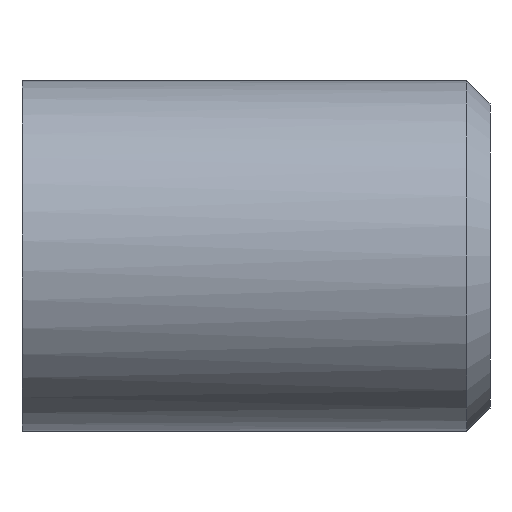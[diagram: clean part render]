
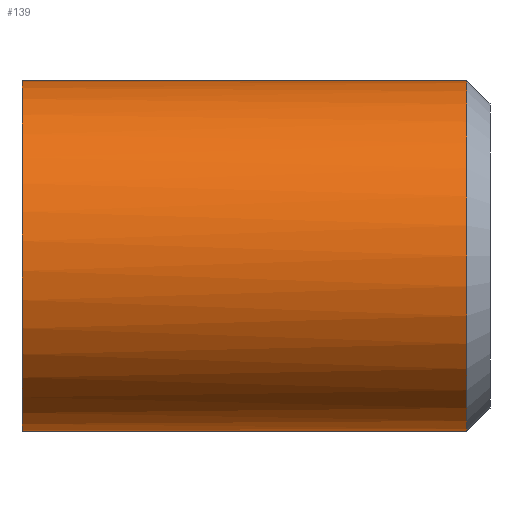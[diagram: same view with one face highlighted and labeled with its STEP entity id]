
A CAD part, front view. The second image highlights one B-rep face of the part: STEP entity #139.
In plain terms, the highlighted cylindrical face has radius 7.5 mm (diameter 15 mm), a full revolution.
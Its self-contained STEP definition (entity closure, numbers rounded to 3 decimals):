
#21=B_SPLINE_CURVE_WITH_KNOTS('',3,(#249,#250,#251,#252),.UNSPECIFIED.,
 .F.,.F.,(4,4),(0.,0.14),.UNSPECIFIED.);
#22=B_SPLINE_CURVE_WITH_KNOTS('',3,(#255,#256,#257,#258),.UNSPECIFIED.,
 .F.,.F.,(4,4),(4.752,4.892),.UNSPECIFIED.);
#23=CYLINDRICAL_SURFACE('',#174,7.5);
#27=FACE_OUTER_BOUND('',#36,.T.);
#36=EDGE_LOOP('',(#104,#105,#106,#107,#108,#109,#110,#111,#112));
#48=LINE('',#247,#54);
#49=LINE('',#253,#55);
#50=LINE('',#260,#56);
#54=VECTOR('',#202,10.);
#55=VECTOR('',#203,7.5);
#56=VECTOR('',#204,10.);
#59=CIRCLE('',#171,7.5);
#60=CIRCLE('',#172,7.5);
#62=CIRCLE('',#175,7.5);
#69=VERTEX_POINT('',#237);
#70=VERTEX_POINT('',#238);
#72=VERTEX_POINT('',#245);
#73=VERTEX_POINT('',#246);
#74=VERTEX_POINT('',#248);
#75=VERTEX_POINT('',#254);
#76=VERTEX_POINT('',#259);
#81=EDGE_CURVE('',#69,#70,#59,.T.);
#82=EDGE_CURVE('',#70,#69,#60,.T.);
#85=EDGE_CURVE('',#72,#73,#48,.T.);
#86=EDGE_CURVE('',#74,#73,#21,.T.);
#87=EDGE_CURVE('',#74,#70,#49,.T.);
#88=EDGE_CURVE('',#75,#74,#22,.T.);
#89=EDGE_CURVE('',#75,#76,#50,.T.);
#90=EDGE_CURVE('',#72,#76,#62,.T.);
#104=ORIENTED_EDGE('',*,*,#85,.T.);
#105=ORIENTED_EDGE('',*,*,#86,.F.);
#106=ORIENTED_EDGE('',*,*,#87,.T.);
#107=ORIENTED_EDGE('',*,*,#81,.F.);
#108=ORIENTED_EDGE('',*,*,#82,.F.);
#109=ORIENTED_EDGE('',*,*,#87,.F.);
#110=ORIENTED_EDGE('',*,*,#88,.F.);
#111=ORIENTED_EDGE('',*,*,#89,.T.);
#112=ORIENTED_EDGE('',*,*,#90,.F.);
#139=ADVANCED_FACE('',(#27),#23,.T.);
#171=AXIS2_PLACEMENT_3D('',#239,#193,#194);
#172=AXIS2_PLACEMENT_3D('',#240,#195,#196);
#174=AXIS2_PLACEMENT_3D('',#244,#200,#201);
#175=AXIS2_PLACEMENT_3D('',#261,#205,#206);
#193=DIRECTION('center_axis',(1.,0.,0.));
#194=DIRECTION('ref_axis',(0.,1.,0.));
#195=DIRECTION('center_axis',(1.,0.,0.));
#196=DIRECTION('ref_axis',(0.,1.,0.));
#200=DIRECTION('center_axis',(-1.,0.,0.));
#201=DIRECTION('ref_axis',(0.,-1.,0.));
#202=DIRECTION('',(1.,0.,0.));
#203=DIRECTION('',(1.,0.,0.));
#204=DIRECTION('',(-1.,0.,0.));
#205=DIRECTION('center_axis',(-1.,0.,0.));
#206=DIRECTION('ref_axis',(0.,-1.,0.));
#237=CARTESIAN_POINT('',(19.,-7.5,0.));
#238=CARTESIAN_POINT('',(19.,7.5,0.));
#239=CARTESIAN_POINT('Origin',(19.,0.,0.));
#240=CARTESIAN_POINT('Origin',(19.,0.,0.));
#244=CARTESIAN_POINT('Origin',(10.,0.,0.));
#245=CARTESIAN_POINT('',(0.,7.399,-1.225));
#246=CARTESIAN_POINT('',(8.,7.399,-1.225));
#247=CARTESIAN_POINT('',(4.,7.399,-1.225));
#248=CARTESIAN_POINT('',(8.739,7.5,0.));
#249=CARTESIAN_POINT('Ctrl Pts',(8.739,7.5,0.));
#250=CARTESIAN_POINT('Ctrl Pts',(8.499,7.5,-0.4));
#251=CARTESIAN_POINT('Ctrl Pts',(8.251,7.468,-0.812));
#252=CARTESIAN_POINT('Ctrl Pts',(8.,7.399,-1.225));
#253=CARTESIAN_POINT('',(10.,7.5,0.));
#254=CARTESIAN_POINT('',(8.,7.399,1.225));
#255=CARTESIAN_POINT('Ctrl Pts',(8.,7.399,1.225));
#256=CARTESIAN_POINT('Ctrl Pts',(8.251,7.468,0.812));
#257=CARTESIAN_POINT('Ctrl Pts',(8.499,7.5,0.399));
#258=CARTESIAN_POINT('Ctrl Pts',(8.739,7.5,0.));
#259=CARTESIAN_POINT('',(0.,7.399,1.225));
#260=CARTESIAN_POINT('',(4.,7.399,1.225));
#261=CARTESIAN_POINT('Origin',(0.,0.,0.));
